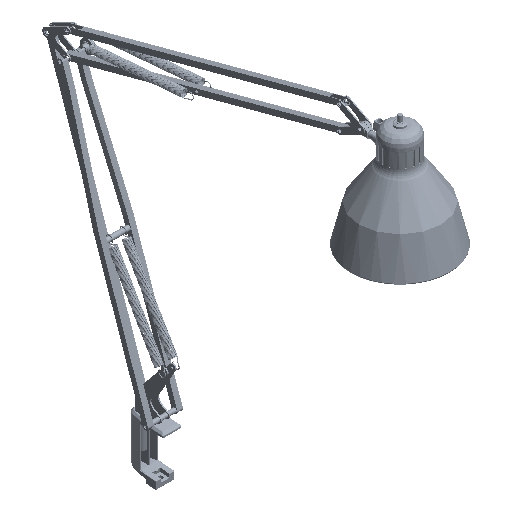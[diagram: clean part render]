
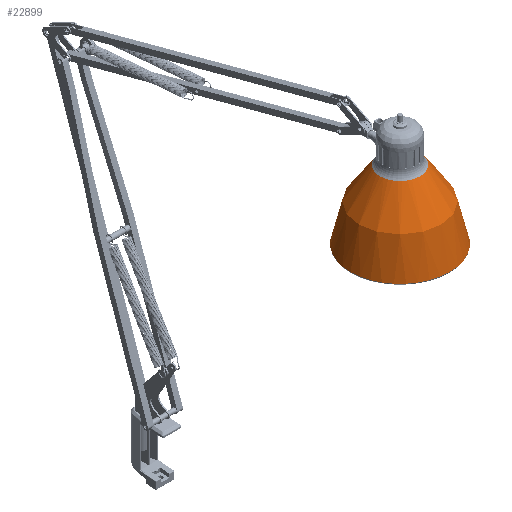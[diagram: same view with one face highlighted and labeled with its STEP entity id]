
A CAD part, isometric view. The second image highlights one B-rep face of the part: STEP entity #22899.
In plain terms, the highlighted free-form (B-spline) face has degree [2, 2] with [3, 9] control points.
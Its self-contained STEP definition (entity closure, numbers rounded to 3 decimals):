
#41=(
BOUNDED_SURFACE()
B_SPLINE_SURFACE(2,2,((#79915,#79916,#79917,#79918,#79919,#79920,#79921,
#79922,#79923),(#79924,#79925,#79926,#79927,#79928,#79929,#79930,#79931,
#79932),(#79933,#79934,#79935,#79936,#79937,#79938,#79939,#79940,#79941)),
 .UNSPECIFIED.,.F.,.T.,.F.)
B_SPLINE_SURFACE_WITH_KNOTS((3,3),(3,2,2,2,3),(0.045,0.773),
(-3.142,-1.571,0.,1.571,3.142),
 .UNSPECIFIED.)
GEOMETRIC_REPRESENTATION_ITEM()
RATIONAL_B_SPLINE_SURFACE(((1.,0.707,1.,0.707,1.,
0.707,1.,0.707,1.),(0.935,0.661,
0.935,0.661,0.935,0.661,0.935,
0.661,0.935),(1.,0.707,1.,0.707,
1.,0.707,1.,0.707,1.)))
REPRESENTATION_ITEM('')
SURFACE()
);
#5440=FACE_OUTER_BOUND('',#6706,.T.);
#6706=EDGE_LOOP('',(#16462,#16463,#16464,#16465,#16466,#16467));
#8171=CIRCLE('',#24521,80.);
#8172=CIRCLE('',#24522,80.);
#8198=CIRCLE('',#24558,32.327);
#8199=CIRCLE('',#24559,32.327);
#8200=CIRCLE('',#24560,168.5);
#9607=VERTEX_POINT('',#78669);
#9608=VERTEX_POINT('',#78670);
#9701=VERTEX_POINT('',#79910);
#9702=VERTEX_POINT('',#79912);
#12113=EDGE_CURVE('',#9607,#9608,#8171,.T.);
#12114=EDGE_CURVE('',#9608,#9607,#8172,.T.);
#12230=EDGE_CURVE('',#9701,#9702,#8198,.T.);
#12231=EDGE_CURVE('',#9702,#9701,#8199,.T.);
#12232=EDGE_CURVE('',#9701,#9608,#8200,.T.);
#16462=ORIENTED_EDGE('',*,*,#12231,.F.);
#16463=ORIENTED_EDGE('',*,*,#12230,.F.);
#16464=ORIENTED_EDGE('',*,*,#12232,.T.);
#16465=ORIENTED_EDGE('',*,*,#12114,.T.);
#16466=ORIENTED_EDGE('',*,*,#12113,.T.);
#16467=ORIENTED_EDGE('',*,*,#12232,.F.);
#22899=ADVANCED_FACE('',(#5440),#41,.F.);
#24521=AXIS2_PLACEMENT_3D('',#78671,#27714,#27715);
#24522=AXIS2_PLACEMENT_3D('',#78672,#27716,#27717);
#24558=AXIS2_PLACEMENT_3D('',#79913,#27828,#27829);
#24559=AXIS2_PLACEMENT_3D('',#79914,#27830,#27831);
#24560=AXIS2_PLACEMENT_3D('',#79942,#27832,#27833);
#27714=DIRECTION('center_axis',(0.,0.,
1.));
#27715=DIRECTION('ref_axis',(-1.,0.,0.));
#27716=DIRECTION('center_axis',(0.,0.,
1.));
#27717=DIRECTION('ref_axis',(-1.,0.,0.));
#27828=DIRECTION('center_axis',(0.,0.,
1.));
#27829=DIRECTION('ref_axis',(-1.,0.,0.));
#27830=DIRECTION('center_axis',(0.,0.,
1.));
#27831=DIRECTION('ref_axis',(-1.,0.,0.));
#27832=DIRECTION('center_axis',(0.,1.,0.));
#27833=DIRECTION('ref_axis',(1.,0.,0.));
#78669=CARTESIAN_POINT('',(-80.7,-418.144,449.979));
#78670=CARTESIAN_POINT('',(79.3,-418.144,449.979));
#78671=CARTESIAN_POINT('Origin',(-0.7,-418.144,449.979));
#78672=CARTESIAN_POINT('Origin',(-0.7,-418.144,449.979));
#79910=CARTESIAN_POINT('',(31.627,-418.144,560.023));
#79912=CARTESIAN_POINT('',(-33.027,-418.144,560.023));
#79913=CARTESIAN_POINT('Origin',(-0.7,-418.144,560.023));
#79914=CARTESIAN_POINT('Origin',(-0.7,-418.144,560.023));
#79915=CARTESIAN_POINT('Ctrl Pts',(79.3,-418.144,449.979));
#79916=CARTESIAN_POINT('Ctrl Pts',(79.3,-338.144,449.979));
#79917=CARTESIAN_POINT('Ctrl Pts',(-0.7,-338.144,
449.979));
#79918=CARTESIAN_POINT('Ctrl Pts',(-80.7,-338.144,
449.979));
#79919=CARTESIAN_POINT('Ctrl Pts',(-80.7,-418.144,
449.979));
#79920=CARTESIAN_POINT('Ctrl Pts',(-80.7,-498.144,
449.979));
#79921=CARTESIAN_POINT('Ctrl Pts',(-0.7,-498.144,
449.979));
#79922=CARTESIAN_POINT('Ctrl Pts',(79.3,-498.144,449.979));
#79923=CARTESIAN_POINT('Ctrl Pts',(79.3,-418.144,449.979));
#79924=CARTESIAN_POINT('Ctrl Pts',(76.415,-418.144,514.078));
#79925=CARTESIAN_POINT('Ctrl Pts',(76.415,-341.029,514.078));
#79926=CARTESIAN_POINT('Ctrl Pts',(-0.7,-341.029,
514.078));
#79927=CARTESIAN_POINT('Ctrl Pts',(-77.815,-341.029,514.078));
#79928=CARTESIAN_POINT('Ctrl Pts',(-77.815,-418.144,
514.078));
#79929=CARTESIAN_POINT('Ctrl Pts',(-77.815,-495.259,
514.078));
#79930=CARTESIAN_POINT('Ctrl Pts',(-0.7,-495.259,
514.078));
#79931=CARTESIAN_POINT('Ctrl Pts',(76.415,-495.259,514.078));
#79932=CARTESIAN_POINT('Ctrl Pts',(76.415,-418.144,514.078));
#79933=CARTESIAN_POINT('Ctrl Pts',(31.627,-418.144,560.023));
#79934=CARTESIAN_POINT('Ctrl Pts',(31.627,-385.817,560.023));
#79935=CARTESIAN_POINT('Ctrl Pts',(-0.7,-385.817,
560.023));
#79936=CARTESIAN_POINT('Ctrl Pts',(-33.027,-385.817,
560.023));
#79937=CARTESIAN_POINT('Ctrl Pts',(-33.027,-418.144,560.023));
#79938=CARTESIAN_POINT('Ctrl Pts',(-33.027,-450.471,
560.023));
#79939=CARTESIAN_POINT('Ctrl Pts',(-0.7,-450.471,
560.023));
#79940=CARTESIAN_POINT('Ctrl Pts',(31.627,-450.471,560.023));
#79941=CARTESIAN_POINT('Ctrl Pts',(31.627,-418.144,560.023));
#79942=CARTESIAN_POINT('Origin',(-89.03,-418.144,442.404));
